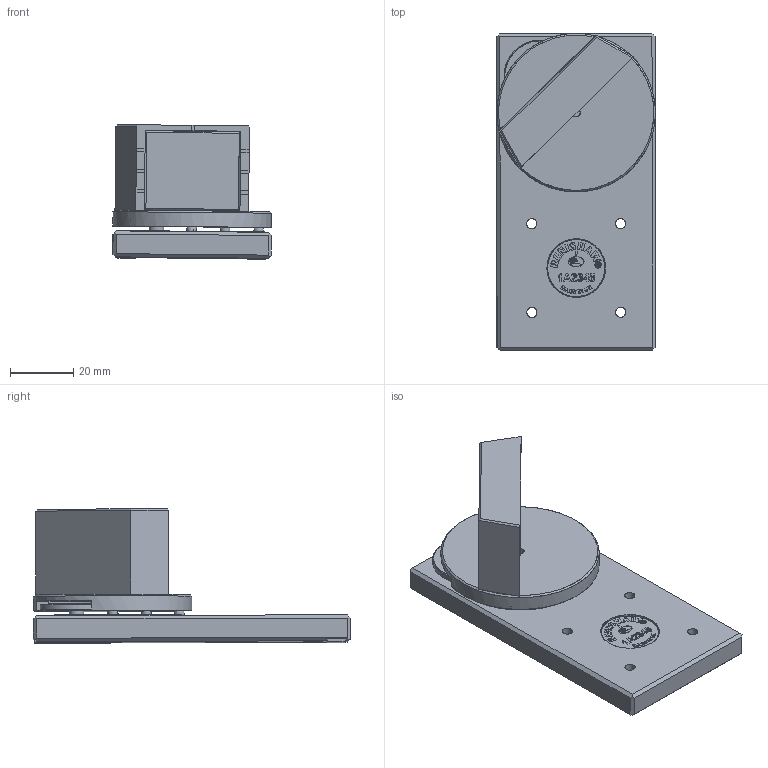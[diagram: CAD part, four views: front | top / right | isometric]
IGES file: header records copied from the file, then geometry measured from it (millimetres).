
Global section: file name: E:\Lightweight models\A-8003-0442  Flatness Kit\LA-8003-0655  Flatness Rotating Mirror\LA-8003-0655-A.igs; native system: NX V7.5; preprocessor: SIEMENS PLM Software NX 7.5; date: 20150331.160522; units: millimetre
Bounding box: 50.2 x 100.08 x 42.52 mm (x, y, z)
Surface area: 26249 mm2 (no closed solid volume)
Topology: 0 solids, 0 shells, 687 faces, 4231 edges, 4180 vertices
Faces by surface type: bspline 687
